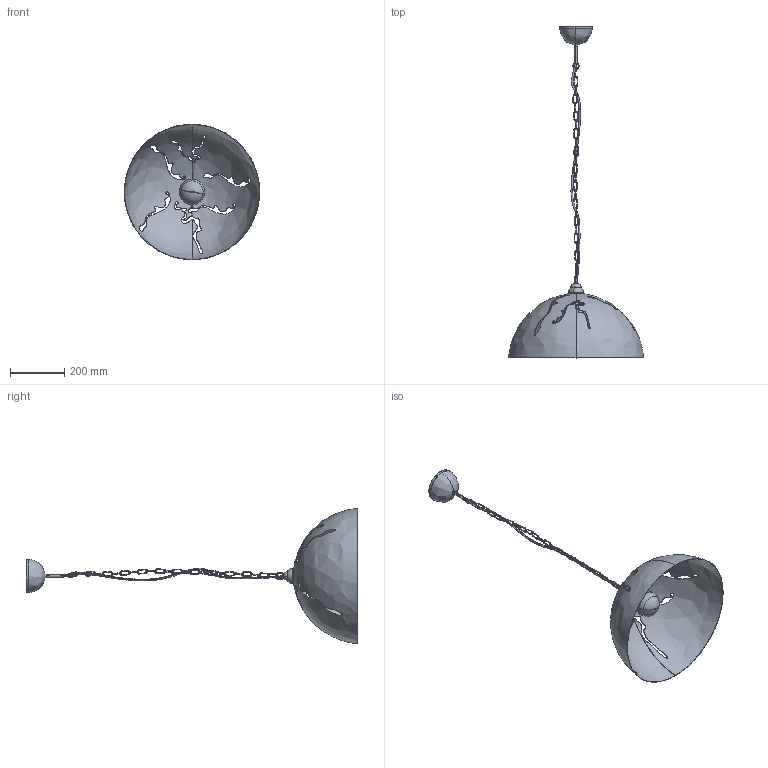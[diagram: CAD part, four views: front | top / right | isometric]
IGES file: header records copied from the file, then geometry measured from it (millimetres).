
Start section: SolidWorks IGES file using analytic representation for surfaces
Global section: file name: E:\3D lampy\Hemisphere\Hemisphere craks\Hemisphere cracks_L.IGS; native system: SolidWorks 2016; preprocessor: SolidWorks 2016; author: Asia; date: 161028.095845; units: millimetre
Bounding box: 500 x 1225.04 x 500 mm (x, y, z)
Surface area: 884857.9 mm2 (no closed solid volume)
Topology: 0 solids, 0 shells, 450 faces, 11224 edges, 11215 vertices
Faces by surface type: bspline 244, revolution 206
